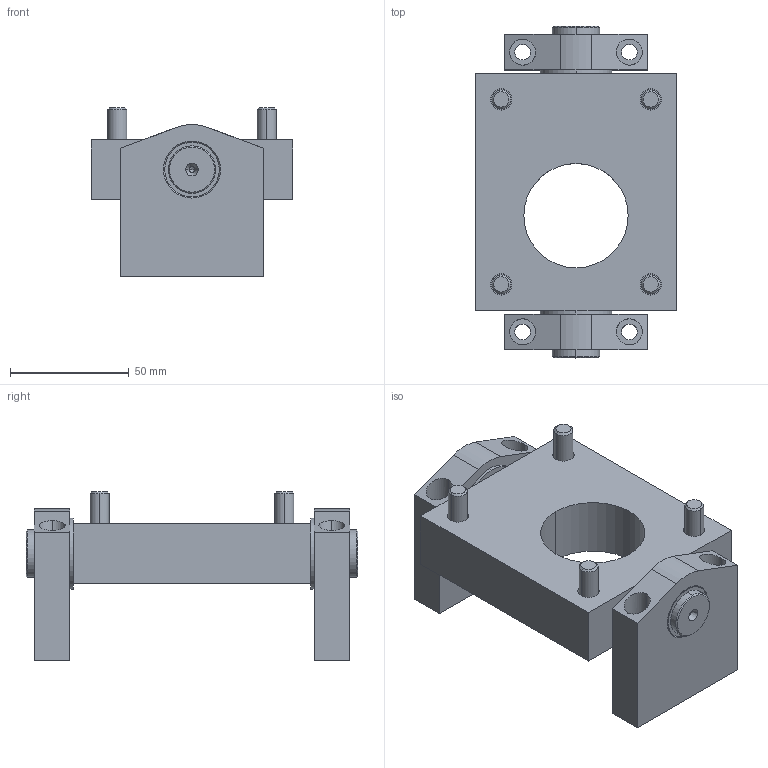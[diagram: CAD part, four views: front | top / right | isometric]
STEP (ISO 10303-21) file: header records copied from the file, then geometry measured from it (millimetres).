
FILE_DESCRIPTION (( 'STEP AP203' ), '1' );
FILE_NAME ('MJ2-KP(Z1)-SFK.STEP', '2024-01-16T09:55:08', ( '' ), ( '' ), 'SwSTEP 2.0', 'SolidWorks 2022', '' );
FILE_SCHEMA (( 'CONFIG_CONTROL_DESIGN' ));
Length unit declared in the file: millimetre
Products named in the file (1): MJ2-KP(Z1)-SFK
Bounding box: 85 x 140 x 71.1 mm (x, y, z)
Volume: 273141.1 mm3; surface area: 70961.1 mm2
Topology: 9 solids, 9 shells, 200 faces, 470 edges, 298 vertices
Faces by surface type: cylinder 76, plane 72, cone 36, torus 16
Entity records: 5783 total; most frequent: CARTESIAN_POINT 1045, DIRECTION 1036, ORIENTED_EDGE 916, EDGE_CURVE 458, AXIS2_PLACEMENT_3D 417, VERTEX_POINT 298, EDGE_LOOP 248, CIRCLE 216
